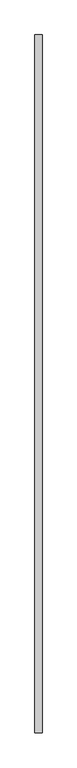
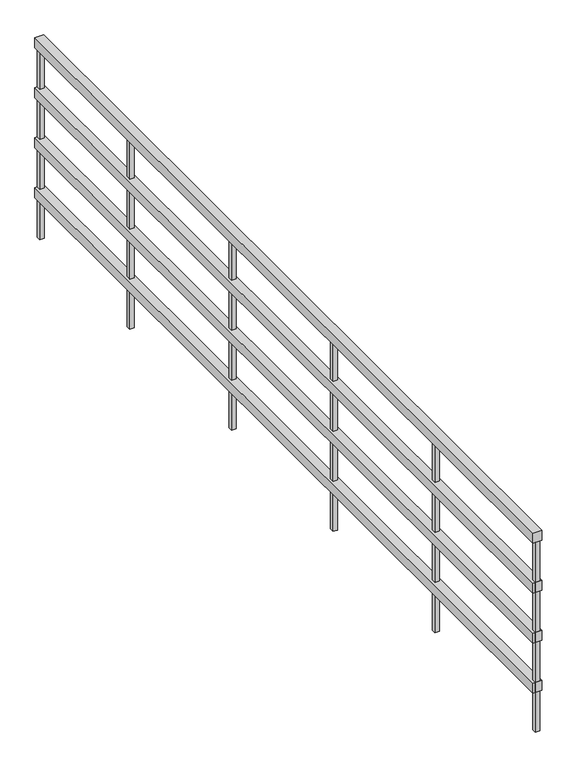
"""IFC4 building model written with IfcOpenShell, lengths in millimetres: railing geometry, RL780-금속재 난간."""

import ifcopenshell
import ifcopenshell.guid

model = None  # the IFC model being written
_history = None  # IfcOwnerHistory: only IFC2X3 demands one
_inside = {}  # id of a spatial element -> (the spatial element, [elements in it])
_under = {}  # id of a project, library or spatial element -> (it, [spatial elements below it])
_declared = {}  # id of a project -> (the project, [libraries it declares])
_typed = {}  # id of a type object -> (the type object, [elements of that type])
_made_of = {}  # id of a material, layer set ... -> (it, [elements and type objects made of it])


def new_model(schema):
    """Start an empty IFC model of exactly this schema.

    Asked for "IFC4X3", IfcOpenShell would pick the latest addendum, in which some entities
    have other attributes; the version numbers below select the first issue.
    IFC2X3 requires an IfcOwnerHistory on every rooted entity: one is made here for all.
    """
    global model, _history
    if schema == "IFC4X3":
        model = ifcopenshell.file(schema_version=(4, 3, 0, 0))
    else:
        model = ifcopenshell.file(schema=schema)
    _inside.clear()
    _under.clear()
    _declared.clear()
    _typed.clear()
    _made_of.clear()
    _history = None
    if model.schema == "IFC2X3":
        org = make("IfcOrganization", Name="unknown")
        user = make(
            "IfcPersonAndOrganization",
            ThePerson=make("IfcPerson", FamilyName="unknown"),
            TheOrganization=org,
        )
        app = make(
            "IfcApplication",
            ApplicationDeveloper=org,
            Version="unknown",
            ApplicationFullName="unknown",
            ApplicationIdentifier="unknown",
        )
        _history = make(
            "IfcOwnerHistory",
            OwningUser=user,
            OwningApplication=app,
            ChangeAction="ADDED",
            CreationDate=0,
        )
    return model


def make(cls, **values):
    """One entity of the class cls with the attributes given. An attribute that is None is left unset."""
    return model.create_entity(
        cls, **{name: value for name, value in values.items() if value is not None}
    )


def rooted(cls, **values):
    """An entity with a GlobalId (a new one), such as an element, a storey or a relation."""
    return make(cls, GlobalId=ifcopenshell.guid.new(), OwnerHistory=_history, **values)


def si_unit(unit_type, name, prefix=None):
    """IfcSIUnit, for example si_unit("LENGTHUNIT", "METRE", prefix="MILLI")."""
    return make("IfcSIUnit", UnitType=unit_type, Prefix=prefix, Name=name)


def assignment(units):
    """IfcUnitAssignment: the units of a project."""
    return None if units is None else make("IfcUnitAssignment", Units=units)


def point(xyz):
    """IfcCartesianPoint."""
    return None if xyz is None else make("IfcCartesianPoint", Coordinates=xyz)


def direction(xyz):
    """IfcDirection."""
    return None if xyz is None else make("IfcDirection", DirectionRatios=xyz)


def frame(location, z_axis=None, x_axis=None):
    """IfcAxis2Placement3D, a coordinate frame: its origin and axes. An axis left out is left unset."""
    return make(
        "IfcAxis2Placement3D",
        Location=point(location),
        Axis=direction(z_axis),
        RefDirection=direction(x_axis),
    )


def origin():
    """The frame at (0, 0, 0) with its axes left unset."""
    return frame((0.0, 0.0, 0.0))


def place(relative_to, where):
    """IfcLocalPlacement: puts the frame where relative to a parent placement (None: the world)."""
    return make(
        "IfcLocalPlacement", PlacementRelTo=relative_to, RelativePlacement=where
    )


def context(
    kind, dimensions, precision=None, world=None, true_north=None, identifier=None
):
    """IfcGeometricRepresentationContext, for example the 3D "Model" context."""
    return make(
        "IfcGeometricRepresentationContext",
        ContextIdentifier=identifier,
        ContextType=kind,
        CoordinateSpaceDimension=dimensions,
        Precision=precision,
        WorldCoordinateSystem=world,
        TrueNorth=true_north,
    )


def project(units=None, contexts=None):
    """IfcProject with its units and contexts."""
    return rooted(
        "IfcProject",
        Name="project",
        RepresentationContexts=contexts,
        UnitsInContext=assignment(units),
    )


def spatial(cls, under=None, at=None, **own):
    """A site, building, storey or space (cls), placed at a placement, below another one or the project."""
    s = rooted(cls, ObjectPlacement=at, **own)
    if under is not None:
        _under.setdefault(under.id(), (under, []))[1].append(s)
    return s


def polyline(points):
    """IfcPolyline through the points."""
    return make("IfcPolyline", Points=[point(p) for p in points])


def outline(outer, holes=None, kind="AREA"):
    """IfcArbitraryClosedProfileDef: a profile drawn as a closed curve; with holes, ...WithVoids."""
    if holes is None:
        return make("IfcArbitraryClosedProfileDef", ProfileType=kind, OuterCurve=outer)
    return make(
        "IfcArbitraryProfileDefWithVoids",
        ProfileType=kind,
        OuterCurve=outer,
        InnerCurves=holes,
    )


def extrude(swept, where, along, depth):
    """IfcExtrudedAreaSolid: the profile swept, set in the frame where, extruded along a direction by depth."""
    return make(
        "IfcExtrudedAreaSolid",
        SweptArea=swept,
        Position=where,
        ExtrudedDirection=direction(along),
        Depth=depth,
    )


def shape(context_of_items, identifier, shape_type, items):
    """IfcShapeRepresentation: the items that make up one representation, for example the "Body"."""
    return make(
        "IfcShapeRepresentation",
        ContextOfItems=context_of_items,
        RepresentationIdentifier=identifier,
        RepresentationType=shape_type,
        Items=items,
    )


def source(mapping_origin, context_of_items, identifier, shape_type, items):
    """IfcRepresentationMap: a shape defined once, which mapped items show again and again."""
    return make(
        "IfcRepresentationMap",
        MappingOrigin=mapping_origin,
        MappedRepresentation=shape(context_of_items, identifier, shape_type, items),
    )


def transform(
    local_origin,
    x_axis=None,
    y_axis=None,
    z_axis=None,
    scale=None,
    scale2=None,
    scale3=None,
    uniform=True,
):
    """IfcCartesianTransformationOperator3D, or its non-uniform kind. x_axis, y_axis, z_axis: its Axis1, 2, 3."""
    if uniform:
        return make(
            "IfcCartesianTransformationOperator3D",
            Axis1=direction(x_axis),
            Axis2=direction(y_axis),
            LocalOrigin=point(local_origin),
            Scale=scale,
            Axis3=direction(z_axis),
        )
    return make(
        "IfcCartesianTransformationOperator3DnonUniform",
        Axis1=direction(x_axis),
        Axis2=direction(y_axis),
        LocalOrigin=point(local_origin),
        Scale=scale,
        Axis3=direction(z_axis),
        Scale2=scale2,
        Scale3=scale3,
    )


def mapped(mapping_source, mapping_target):
    """IfcMappedItem: shows the shape of a source again, moved by a transform."""
    return make(
        "IfcMappedItem", MappingSource=mapping_source, MappingTarget=mapping_target
    )


def made_of(thing, what):
    """Note that an element or type object is made of a material, layer set ...; save() writes the relation."""
    if what is not None:
        _made_of.setdefault(what.id(), (what, []))[1].append(thing)
    return thing


def element(
    cls,
    number,
    at=None,
    inside=None,
    cuts=None,
    type_object=None,
    material=None,
    context=None,
    identifier="Body",
    shape_type=None,
    held_by="IfcProductDefinitionShape",
    body=None,
    shapes=None,
    **own,
):
    """One element of the class cls, such as IfcWall. Its Tag is "e" and its number.

    at: its placement. inside: the storey or other place that contains it. cuts: it is an
    opening in that element (IfcRelVoidsElement). A single representation is given by context,
    identifier, shape_type and body (its items); several are given by shapes. held_by: the class
    of the entity that holds the representations. save() writes the other relations.
    """
    e = rooted(cls, Tag="e%d" % number, ObjectPlacement=at, **own)
    if body is not None:
        shapes = [shape(context, identifier, shape_type, body)]
    if shapes is not None:
        e.Representation = make(held_by, Representations=shapes)
    if inside is not None:
        _inside.setdefault(inside.id(), (inside, []))[1].append(e)
    if cuts is not None:
        rooted(
            "IfcRelVoidsElement", RelatingBuildingElement=cuts, RelatedOpeningElement=e
        )
    if type_object is not None:
        _typed.setdefault(type_object.id(), (type_object, []))[1].append(e)
    return made_of(e, material)


def aggregate(whole, parts):
    """IfcRelAggregates: a whole, such as a stair, and the parts it consists of."""
    return rooted("IfcRelAggregates", RelatingObject=whole, RelatedObjects=parts)


def save(model, path):
    """Write the relations noted so far, then the file.

    IfcRelAggregates (storeys below a building ...), IfcRelContainedInSpatialStructure (elements
    in a storey), IfcRelDefinesByType, IfcRelAssociatesMaterial and IfcRelDeclares: one each for
    every whole, place, type object, material and project.
    """
    for whole, parts in _under.values():
        aggregate(whole, parts)
    for where, things in _inside.values():
        rooted(
            "IfcRelContainedInSpatialStructure",
            RelatedElements=things,
            RelatingStructure=where,
        )
    for kind, things in _typed.values():
        rooted("IfcRelDefinesByType", RelatedObjects=things, RelatingType=kind)
    for what, things in _made_of.values():
        rooted("IfcRelAssociatesMaterial", RelatedObjects=things, RelatingMaterial=what)
    for by, libraries in _declared.values():
        rooted("IfcRelDeclares", RelatingContext=by, RelatedDefinitions=libraries)
    model.write(path)


def railing_281d54a7(model_context):
    return source(origin(), model_context, "Body", "SweptSolid", [
        extrude(outline(polyline([(15175.0, 10800.0), (15125.0, 10800.0), (15125.0, 15700.0), (15175.0, 15700.0), (15175.0, 10800.0)])), frame((0.0, 0.0, 990.0), z_axis=(0.0, 0.0, 1.0), x_axis=(1.0, 0.0, 0.0)), (0.0, 0.0, 1.0), 60.0),
        extrude(outline(polyline([(15175.0, 10800.0), (15125.0, 10800.0), (15125.0, 15700.0), (15175.0, 15700.0), (15175.0, 10800.0)])), frame((0.0, 0.0, 690.0), z_axis=(0.0, 0.0, 1.0), x_axis=(1.0, 0.0, 0.0)), (0.0, 0.0, 1.0), 60.0),
        extrude(outline(polyline([(15175.0, 10800.0), (15125.0, 10800.0), (15125.0, 15700.0), (15175.0, 15700.0), (15175.0, 10800.0)])), frame((0.0, 0.0, 390.0), z_axis=(0.0, 0.0, 1.0), x_axis=(1.0, 0.0, 0.0)), (0.0, 0.0, 1.0), 60.0),
        extrude(outline(polyline([(15175.0, 10800.0), (15125.0, 10800.0), (15125.0, 15700.0), (15175.0, 15700.0), (15175.0, 10800.0)])), frame((0.0, 0.0, 90.0), z_axis=(0.0, 0.0, 1.0), x_axis=(1.0, 0.0, 0.0)), (0.0, 0.0, 1.0), 60.0),
        extrude(outline(polyline([(15162.5, 14787.5), (15137.5, 14787.5), (15137.5, 14812.5), (15162.5, 14812.5), (15162.5, 14787.5)])), frame((0.0, 0.0, -150.0), z_axis=(0.0, 0.0, 1.0), x_axis=(1.0, 0.0, 0.0)), (0.0, 0.0, 1.0), 1140.0),
        extrude(outline(polyline([(15162.5, 13787.5), (15137.5, 13787.5), (15137.5, 13812.5), (15162.5, 13812.5), (15162.5, 13787.5)])), frame((0.0, 0.0, -150.0), z_axis=(0.0, 0.0, 1.0), x_axis=(1.0, 0.0, 0.0)), (0.0, 0.0, 1.0), 1140.0),
        extrude(outline(polyline([(15162.5, 12787.5), (15137.5, 12787.5), (15137.5, 12812.5), (15162.5, 12812.5), (15162.5, 12787.5)])), frame((0.0, 0.0, -150.0), z_axis=(0.0, 0.0, 1.0), x_axis=(1.0, 0.0, 0.0)), (0.0, 0.0, 1.0), 1140.0),
        extrude(outline(polyline([(15162.5, 11787.5), (15137.5, 11787.5), (15137.5, 11812.5), (15162.5, 11812.5), (15162.5, 11787.5)])), frame((0.0, 0.0, -150.0), z_axis=(0.0, 0.0, 1.0), x_axis=(1.0, 0.0, 0.0)), (0.0, 0.0, 1.0), 1140.0),
        extrude(outline(polyline([(15162.5, 15675.0), (15137.5, 15675.0), (15137.5, 15700.0), (15162.5, 15700.0), (15162.5, 15675.0)])), frame((0.0, 0.0, -150.0), z_axis=(0.0, 0.0, 1.0), x_axis=(1.0, 0.0, 0.0)), (0.0, 0.0, 1.0), 1140.0),
        extrude(outline(polyline([(15162.5, 10800.0), (15137.5, 10800.0), (15137.5, 10825.0), (15162.5, 10825.0), (15162.5, 10800.0)])), frame((0.0, 0.0, -150.0), z_axis=(0.0, 0.0, 1.0), x_axis=(1.0, 0.0, 0.0)), (0.0, 0.0, 1.0), 1140.0),
    ])


if __name__ == "__main__":
    model = new_model("IFC4")
    model_context = context("Model", 3, world=origin())
    ifc_project = project(units=[si_unit("LENGTHUNIT", "METRE", prefix="MILLI")], contexts=[model_context])
    site = spatial("IfcSite", under=ifc_project)
    building = spatial("IfcBuilding", under=site)
    placement = place(None, origin())
    railing_shape = railing_281d54a7(model_context)
    element("IfcRailing", 1, ObjectType="RL780-금속재 난간", at=placement, inside=building, context=model_context, shape_type="MappedRepresentation", body=[
        mapped(railing_shape, transform((0.0, 0.0, 0.0), x_axis=(1.0, 0.0, 0.0), y_axis=(0.0, 1.0, 0.0), z_axis=(0.0, 0.0, 1.0))),
    ])
    save(model, "model.ifc")
